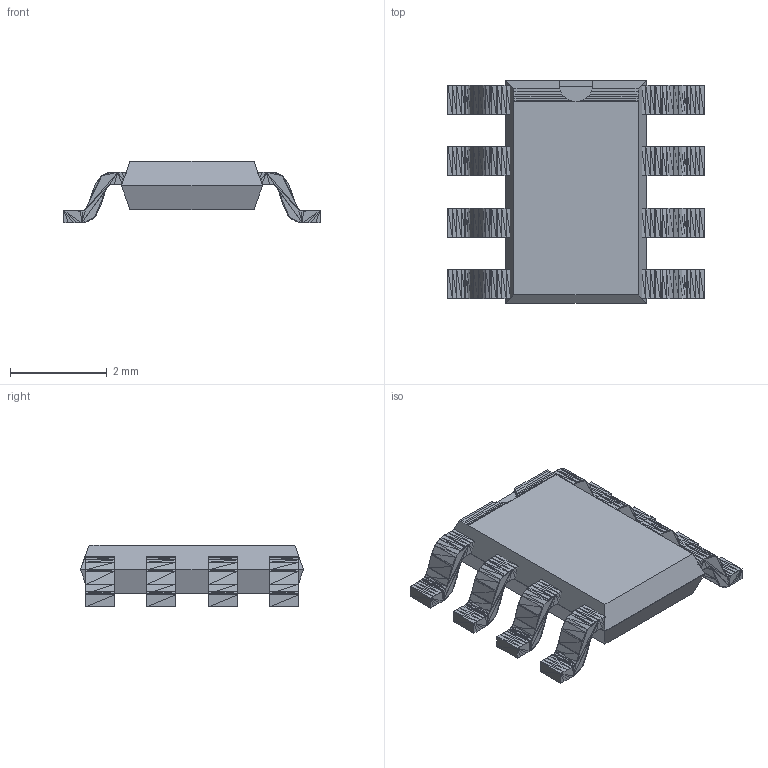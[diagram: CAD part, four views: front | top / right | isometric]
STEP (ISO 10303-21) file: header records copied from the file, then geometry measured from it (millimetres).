
FILE_DESCRIPTION(('shape.step'),'2;1');
FILE_NAME('shape.step','2026-11-03',('tscircuit'),('tscircuit'),'generator','','');
FILE_SCHEMA(('AUTOMOTIVE_DESIGN { 1 0 10303 214 1 1 1 1 }'));
Length unit declared in the file: millimetre
Products named in the file (1): shape
Bounding box: 5.3 x 4.61 x 1.28 mm (x, y, z)
Volume: 14.3 mm3; surface area: 66.6 mm2
Topology: 9 solids, 9 shells, 1491 faces, 2279 edges, 806 vertices
Faces by surface type: plane 1491
Entity records: 27320 total; most frequent: DIRECTION 5263, ORIENTED_EDGE 4558, CARTESIAN_POINT 2298, VECTOR 2279, LINE 2279, EDGE_CURVE 2279, AXIS2_PLACEMENT_3D 1492, PLANE 1491
